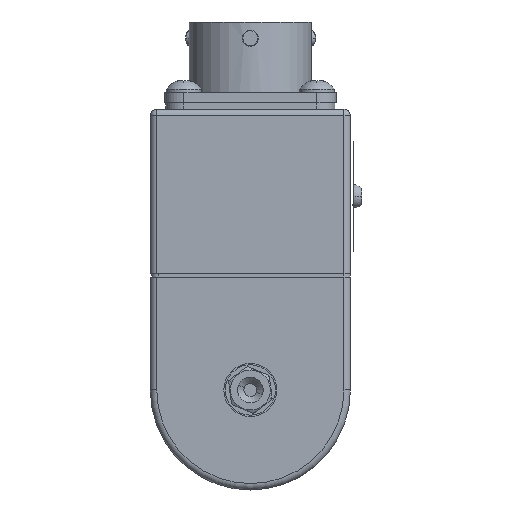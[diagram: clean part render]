
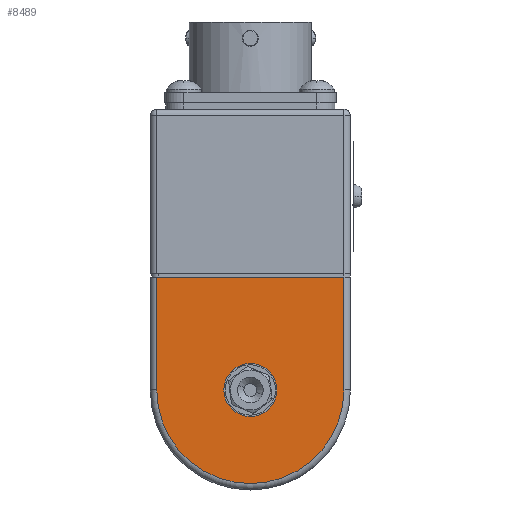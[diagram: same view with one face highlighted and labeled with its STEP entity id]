
A CAD part, left-side view. The second image highlights one B-rep face of the part: STEP entity #8489.
In plain terms, the highlighted planar face has unit normal (-1, 0, 0).
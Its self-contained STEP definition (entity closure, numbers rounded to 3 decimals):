
#8176=DIRECTION('',(0.,0.,1.));
#8177=VECTOR('',#8176,17.5);
#8178=CARTESIAN_POINT('',(-28.,14.5,0.01));
#8179=LINE('',#8178,#8177);
#8184=DIRECTION('',(0.,-1.,0.));
#8185=VECTOR('',#8184,29.);
#8186=CARTESIAN_POINT('',(-28.,14.5,17.51));
#8187=LINE('',#8186,#8185);
#8188=CARTESIAN_POINT('',(-28.,0.,0.01));
#8189=DIRECTION('',(-1.,0.,0.));
#8190=DIRECTION('',(0.,1.,0.));
#8191=AXIS2_PLACEMENT_3D('',#8188,#8189,#8190);
#8193=CARTESIAN_POINT('',(-28.,0.,0.01));
#8194=DIRECTION('',(-1.,0.,0.));
#8195=DIRECTION('',(0.,0.,1.));
#8196=AXIS2_PLACEMENT_3D('',#8193,#8194,#8195);
#8198=CARTESIAN_POINT('',(-28.,0.,0.01));
#8199=DIRECTION('',(-1.,0.,0.));
#8200=DIRECTION('',(0.,0.,-1.));
#8201=AXIS2_PLACEMENT_3D('',#8198,#8199,#8200);
#8212=DIRECTION('',(0.,0.,-1.));
#8213=VECTOR('',#8212,17.5);
#8214=CARTESIAN_POINT('',(-28.,-14.5,17.51));
#8215=LINE('',#8214,#8213);
#8236=CARTESIAN_POINT('',(-28.,14.5,17.51));
#8237=CARTESIAN_POINT('',(-28.,-14.5,17.51));
#8238=VERTEX_POINT('',#8236);
#8239=VERTEX_POINT('',#8237);
#8260=CARTESIAN_POINT('',(-28.,-14.5,0.01));
#8261=VERTEX_POINT('',#8260);
#8262=CARTESIAN_POINT('',(-28.,14.5,0.01));
#8263=VERTEX_POINT('',#8262);
#8278=CARTESIAN_POINT('',(-28.,0.,-4.09));
#8279=CARTESIAN_POINT('',(-28.,0.,4.11));
#8280=VERTEX_POINT('',#8278);
#8281=VERTEX_POINT('',#8279);
#8469=CARTESIAN_POINT('',(-28.,-15.5,40.21));
#8470=DIRECTION('',(1.,0.,0.));
#8471=DIRECTION('',(0.,0.,-1.));
#8472=AXIS2_PLACEMENT_3D('',#8469,#8470,#8471);
#8473=PLANE('',#8472);
#8475=ORIENTED_EDGE('',*,*,#8474,.T.);
#8477=ORIENTED_EDGE('',*,*,#8476,.T.);
#8479=ORIENTED_EDGE('',*,*,#8478,.F.);
#8480=ORIENTED_EDGE('',*,*,#8454,.T.);
#8481=EDGE_LOOP('',(#8475,#8477,#8479,#8480));
#8482=FACE_OUTER_BOUND('',#8481,.F.);
#8484=ORIENTED_EDGE('',*,*,#8483,.T.);
#8486=ORIENTED_EDGE('',*,*,#8485,.T.);
#8487=EDGE_LOOP('',(#8484,#8486));
#8488=FACE_BOUND('',#8487,.F.);
#8192=CIRCLE('',#8191,14.5);
#8197=CIRCLE('',#8196,4.1);
#8202=CIRCLE('',#8201,4.1);
#8454=EDGE_CURVE('',#8263,#8238,#8179,.T.);
#8474=EDGE_CURVE('',#8238,#8239,#8187,.T.);
#8476=EDGE_CURVE('',#8239,#8261,#8215,.T.);
#8478=EDGE_CURVE('',#8263,#8261,#8192,.T.);
#8483=EDGE_CURVE('',#8281,#8280,#8197,.T.);
#8485=EDGE_CURVE('',#8280,#8281,#8202,.T.);
#8489=ADVANCED_FACE('',(#8482,#8488),#8473,.F.);
